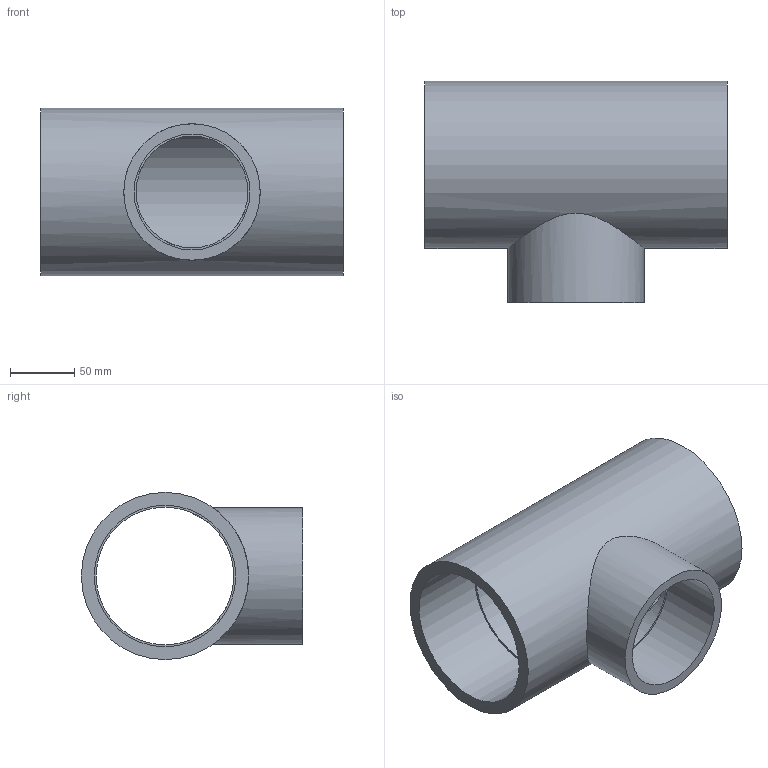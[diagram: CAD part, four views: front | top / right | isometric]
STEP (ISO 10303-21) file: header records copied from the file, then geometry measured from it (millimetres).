
FILE_DESCRIPTION(/* description */ ('PVC ti a 90° ridotto incollaggio metrico'),/* implementation_level */ '2;1');
FILE_NAME(/* name */ 'C:\Users\POLYPIPE\Desktop\DATASET INVENTOR\LIBRERIA EFFAST\RACCORDI 3DxWEB\RDR\3D_RDRTRD\3D_RDRTRD110I.stp',/* time_stamp */ '2018-01-19T15:49:48+01:00',/* author */ ('POLYPIPE'),/* organization */ ('Polypipe Italia s.r.l.'),/* preprocessor_version */ 'ST-DEVELOPER v16.1',/* originating_system */ 'Autodesk Inventor 2016',/* authorisation */ '');
FILE_SCHEMA (('CONFIG_CONTROL_DESIGN'));
Length unit declared in the file: millimetre
Products named in the file (1): 3D_RDRTRD
Bounding box: 235 x 172 x 130 mm (x, y, z)
Volume: 998840 mm3; surface area: 207291.5 mm2
Topology: 1 solids, 1 shells, 13 faces, 23 edges, 16 vertices
Faces by surface type: cylinder 7, plane 6
Full cylindrical faces by diameter (mm): 87 x1, 90 x1, 106 x1, 107 x1, 110 x2, 130 x1
Entity records: 430 total; most frequent: CARTESIAN_POINT 172, DIRECTION 52, EDGE_LOOP 28, ORIENTED_EDGE 28, AXIS2_PLACEMENT_3D 26, FACE_BOUND 15, VERTEX_POINT 14, EDGE_CURVE 14
